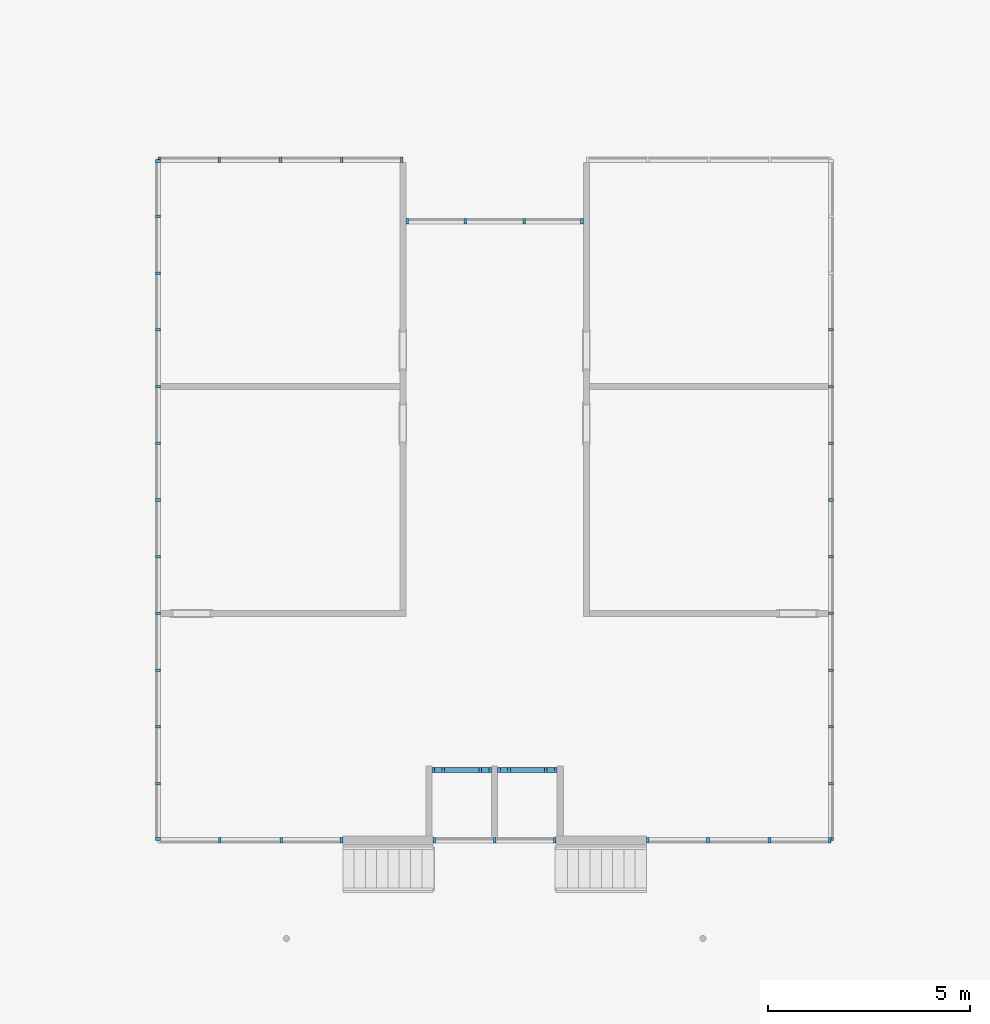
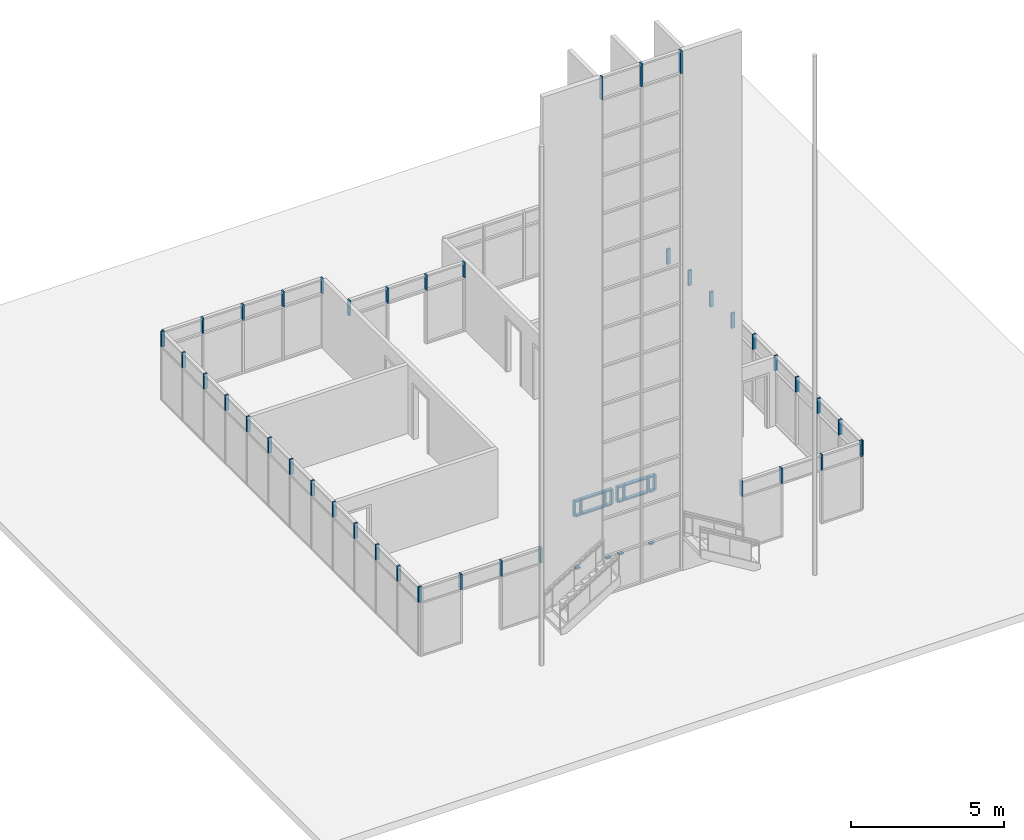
# One storey, part 5 of 12: 66 members, 9 elements without a shape of their own.
"""IFC2X3 building model written with IfcOpenShell, lengths in feet."""

from ifc_helpers import new_model, entity, si_unit, converted_unit, derived_unit, direction, frame, origin, origin_2d_with_axis, place, context, subcontext, project, spatial, rectangle, extrude, source, transform, mapped, material, type_object, type_shapes, element, aggregate, save


model = new_model("IFC2X3")

# Units and contexts
model_context = context("Model", 3, precision=0.0001, world=origin(), true_north=direction((6.12303176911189e-17, 1.0)))
body_context = subcontext(model_context, "Body", "Model", "MODEL_VIEW")
ifc_project = project(units=[converted_unit("LENGTHUNIT", "FOOT", entity("IfcRatioMeasure", 0.3048), si_unit("LENGTHUNIT", "METRE"), dimensions=[1, 0, 0, 0, 0, 0, 0]), converted_unit("AREAUNIT", "SQUARE FOOT", entity("IfcRatioMeasure", 0.09290304), si_unit("AREAUNIT", "SQUARE_METRE"), dimensions=[2, 0, 0, 0, 0, 0, 0]), converted_unit("VOLUMEUNIT", "CUBIC FOOT", entity("IfcRatioMeasure", 0.028316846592), si_unit("VOLUMEUNIT", "CUBIC_METRE"), dimensions=[3, 0, 0, 0, 0, 0, 0]), converted_unit("PLANEANGLEUNIT", "DEGREE", entity("IfcRatioMeasure", 0.0174532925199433), si_unit("PLANEANGLEUNIT", "RADIAN"), dimensions=[0, 0, 0, 0, 0, 0, 0]), si_unit("MASSUNIT", "GRAM", prefix="KILO"), derived_unit("MASSDENSITYUNIT", [(si_unit("MASSUNIT", "GRAM", prefix="KILO"), 1), (si_unit("LENGTHUNIT", "METRE"), -3)]), si_unit("TIMEUNIT", "SECOND"), si_unit("FREQUENCYUNIT", "HERTZ"), si_unit("THERMODYNAMICTEMPERATUREUNIT", "DEGREE_CELSIUS"), derived_unit("THERMALTRANSMITTANCEUNIT", [(si_unit("MASSUNIT", "GRAM", prefix="KILO"), 1), (si_unit("THERMODYNAMICTEMPERATUREUNIT", "KELVIN"), -1), (si_unit("TIMEUNIT", "SECOND"), -3)]), derived_unit("VOLUMETRICFLOWRATEUNIT", [(si_unit("LENGTHUNIT", "METRE"), 3), (si_unit("TIMEUNIT", "SECOND"), -1)]), si_unit("ELECTRICCURRENTUNIT", "AMPERE"), si_unit("ELECTRICVOLTAGEUNIT", "VOLT"), si_unit("POWERUNIT", "WATT"), si_unit("FORCEUNIT", "NEWTON"), si_unit("ILLUMINANCEUNIT", "LUX"), si_unit("LUMINOUSFLUXUNIT", "LUMEN"), si_unit("LUMINOUSINTENSITYUNIT", "CANDELA"), derived_unit("USERDEFINED", [(si_unit("MASSUNIT", "GRAM", prefix="KILO"), -1), (si_unit("LENGTHUNIT", "METRE"), -2), (si_unit("TIMEUNIT", "SECOND"), 3), (si_unit("LUMINOUSFLUXUNIT", "LUMEN"), 1)]), derived_unit("LINEARVELOCITYUNIT", [(si_unit("LENGTHUNIT", "METRE"), 1), (si_unit("TIMEUNIT", "SECOND"), -1)]), si_unit("PRESSUREUNIT", "PASCAL"), derived_unit("USERDEFINED", [(si_unit("LENGTHUNIT", "METRE"), -2), (si_unit("MASSUNIT", "GRAM", prefix="KILO"), 1), (si_unit("TIMEUNIT", "SECOND"), -2)])], contexts=[model_context])

# Site, building, storey
site_placement = place(None, origin())
site = spatial("IfcSite", under=ifc_project, at=site_placement, Name="Default", CompositionType="ELEMENT")
building_placement = place(site_placement, origin())
building = spatial("IfcBuilding", under=site, at=building_placement, CompositionType="ELEMENT")
storey_placement = place(building_placement, origin())
storey = spatial("IfcBuildingStorey", under=building, at=storey_placement, Name="Level 1", CompositionType="ELEMENT", Elevation=0.0)

# Curtain wall, members
curtain_wall_type_1 = type_object("IfcCurtainWallType", Name="Curtain Wall:Storefront", PredefinedType="NOTDEFINED")
curtain_wall_1_placement = place(storey_placement, origin())
curtain_wall_1 = element("IfcCurtainWall", 1, at=curtain_wall_1_placement, inside=storey, type_object=curtain_wall_type_1, Name="Curtain Wall:Storefront", ObjectType="Curtain Wall:Storefront")
ifc_material = material(Name="Aluminum")
member_type_1 = type_object("IfcMemberType", Name="2.5\" x 5\" rectangular", PredefinedType="MEMBER")
shared_shape_1 = source(origin(), body_context, "Body", "SweptSolid", [
    extrude(rectangle(XDim=0.416666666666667, YDim=0.208333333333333, at=origin_2d_with_axis()), frame((-0.104166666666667, 0.0, -3.0), z_axis=(0.0, 0.0, 1.0), x_axis=(0.0, -1.0, 0.0)), (0.0, 0.0, 1.0), 3.0),
])
type_shapes(member_type_1, [shared_shape_1])
member_1_placement = place(storey_placement, frame((-38.9918294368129, -6.94114126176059, 68.0), z_axis=(0.0, 0.0, 1.0), x_axis=(-1.0, 0.0, 0.0)))
member_1 = element("IfcMember", 2, at=member_1_placement, type_object=member_type_1, material=ifc_material, Name="Rectangular Mullion:2.5\" x 5\" rectangular", ObjectType="2.5\" x 5\" rectangular", context=body_context, shape_type="MappedRepresentation", body=[
    mapped(shared_shape_1, transform((0.0, 0.0, 0.0), scale=1.0)),
])
member_type_2 = type_object("IfcMemberType", Name="2.5\" x 5\" rectangular", PredefinedType="MEMBER")
shared_shape_2 = source(origin(), body_context, "Body", "SweptSolid", [
    extrude(rectangle(XDim=0.416666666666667, YDim=0.208333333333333, at=origin_2d_with_axis()), frame((-0.104166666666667, 0.0, -3.0), z_axis=(0.0, 0.0, 1.0), x_axis=(0.0, -1.0, 0.0)), (0.0, 0.0, 1.0), 3.0),
])
type_shapes(member_type_2, [shared_shape_2])
member_2_placement = place(storey_placement, frame((-28.9918294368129, -6.94114126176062, 65.0), z_axis=(0.0, 0.0, -1.0), x_axis=(1.0, 0.0, 0.0)))
member_2 = element("IfcMember", 3, at=member_2_placement, type_object=member_type_2, material=ifc_material, Name="Rectangular Mullion:2.5\" x 5\" rectangular", ObjectType="2.5\" x 5\" rectangular", context=body_context, shape_type="MappedRepresentation", body=[
    mapped(shared_shape_2, transform((0.0, 0.0, 0.0), scale=1.0)),
])
member_type_3 = type_object("IfcMemberType", Name="2.5\" x 5\" rectangular", PredefinedType="MEMBER")
shared_shape_3 = source(origin(), body_context, "Body", "SweptSolid", [
    extrude(rectangle(XDim=0.416666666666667, YDim=0.208333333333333, at=origin_2d_with_axis()), frame((0.0, 0.0, -3.0), z_axis=(0.0, 0.0, 1.0), x_axis=(0.0, -1.0, 0.0)), (0.0, 0.0, 1.0), 3.0),
])
type_shapes(member_type_3, [shared_shape_3])
member_3_placement = place(storey_placement, frame((-33.9918294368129, -6.94114126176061, 65.0), z_axis=(0.0, 0.0, -1.0), x_axis=(1.0, 0.0, 0.0)))
member_3 = element("IfcMember", 4, at=member_3_placement, type_object=member_type_3, material=ifc_material, Name="Rectangular Mullion:2.5\" x 5\" rectangular", ObjectType="2.5\" x 5\" rectangular", context=body_context, shape_type="MappedRepresentation", body=[
    mapped(shared_shape_3, transform((0.0, 0.0, 0.0), scale=1.0)),
])
aggregate(curtain_wall_1, [member_1, member_2, member_3])

# Curtain wall, member
curtain_wall_type_2 = type_object("IfcCurtainWallType", Name="Curtain Wall:Storefront 2", PredefinedType="NOTDEFINED")
curtain_wall_2_placement = place(storey_placement, origin())
curtain_wall_2 = element("IfcCurtainWall", 5, at=curtain_wall_2_placement, inside=storey, type_object=curtain_wall_type_2, Name="Curtain Wall:Storefront 2", ObjectType="Curtain Wall:Storefront 2")
member_type_4 = type_object("IfcMemberType", Name="2.5\" x 5\" rectangular", PredefinedType="MEMBER")
shared_shape_4 = source(origin(), body_context, "Body", "SweptSolid", [
    extrude(rectangle(XDim=0.416666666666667, YDim=0.208333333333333, at=origin_2d_with_axis()), frame((-0.104166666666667, 0.0, -2.0), z_axis=(0.0, 0.0, 1.0), x_axis=(0.0, -1.0, 0.0)), (0.0, 0.0, 1.0), 2.0),
])
type_shapes(member_type_4, [shared_shape_4])
member_4_placement = place(storey_placement, frame((-21.6584961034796, -6.94114126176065, 7.0), z_axis=(0.0, 0.0, -1.0), x_axis=(-1.0, 0.0, 0.0)))
member_4 = element("IfcMember", 6, at=member_4_placement, type_object=member_type_4, material=ifc_material, Name="Rectangular Mullion:2.5\" x 5\" rectangular", ObjectType="2.5\" x 5\" rectangular", context=body_context, shape_type="MappedRepresentation", body=[
    mapped(shared_shape_4, transform((0.0, 0.0, 0.0), scale=1.0)),
])

curtain_wall_3_placement = place(storey_placement, origin())
curtain_wall_3 = element("IfcCurtainWall", 7, at=curtain_wall_3_placement, inside=storey, type_object=curtain_wall_type_2, Name="Curtain Wall:Storefront 2", ObjectType="Curtain Wall:Storefront 2")
member_5_placement = place(storey_placement, frame((-39.0751627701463, -1.23280792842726, 7.0), z_axis=(0.0, 0.0, -1.0), x_axis=(-1.0, 0.0, 0.0)))
member_5 = element("IfcMember", 8, at=member_5_placement, type_object=member_type_4, material=ifc_material, Name="Rectangular Mullion:2.5\" x 5\" rectangular", ObjectType="2.5\" x 5\" rectangular", context=body_context, shape_type="MappedRepresentation", body=[
    mapped(shared_shape_4, transform((0.0, 0.0, 0.0), scale=1.0)),
])

curtain_wall_4_placement = place(storey_placement, origin())
curtain_wall_4 = element("IfcCurtainWall", 9, at=curtain_wall_4_placement, inside=storey, type_object=curtain_wall_type_2, Name="Curtain Wall:Storefront 2", ObjectType="Curtain Wall:Storefront 2")
member_6_placement = place(storey_placement, frame((-33.7418294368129, -1.23280792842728, 7.0), z_axis=(0.0, 0.0, -1.0), x_axis=(-1.0, 0.0, 0.0)))
member_6 = element("IfcMember", 10, at=member_6_placement, type_object=member_type_4, material=ifc_material, Name="Rectangular Mullion:2.5\" x 5\" rectangular", ObjectType="2.5\" x 5\" rectangular", context=body_context, shape_type="MappedRepresentation", body=[
    mapped(shared_shape_4, transform((0.0, 0.0, 0.0), scale=1.0)),
])

curtain_wall_5_placement = place(storey_placement, origin())
curtain_wall_5 = element("IfcCurtainWall", 11, at=curtain_wall_5_placement, inside=storey, type_object=curtain_wall_type_2, Name="Curtain Wall:Storefront 2", ObjectType="Curtain Wall:Storefront 2")
member_7_placement = place(storey_placement, frame((-61.3251627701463, 48.3505254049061, 7.0), z_axis=(0.0, 0.0, -1.0), x_axis=(0.0, 1.0, 0.0)))
member_7 = element("IfcMember", 12, at=member_7_placement, type_object=member_type_4, material=ifc_material, Name="Rectangular Mullion:2.5\" x 5\" rectangular", ObjectType="2.5\" x 5\" rectangular", context=body_context, shape_type="MappedRepresentation", body=[
    mapped(shared_shape_4, transform((0.0, 0.0, 0.0), scale=1.0)),
])

curtain_wall_6_placement = place(storey_placement, origin())
curtain_wall_6 = element("IfcCurtainWall", 13, at=curtain_wall_6_placement, inside=storey, type_object=curtain_wall_type_2, Name="Curtain Wall:Storefront 2", ObjectType="Curtain Wall:Storefront 2")
member_8_placement = place(storey_placement, frame((-41.4463748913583, 48.3505254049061, 7.0), z_axis=(0.0, 0.0, -1.0), x_axis=(1.0, 0.0, 0.0)))
member_8 = element("IfcMember", 14, at=member_8_placement, type_object=member_type_4, material=ifc_material, Name="Rectangular Mullion:2.5\" x 5\" rectangular", ObjectType="2.5\" x 5\" rectangular", context=body_context, shape_type="MappedRepresentation", body=[
    mapped(shared_shape_4, transform((0.0, 0.0, 0.0), scale=1.0)),
])

curtain_wall_7_placement = place(storey_placement, origin())
curtain_wall_7 = element("IfcCurtainWall", 15, at=curtain_wall_7_placement, inside=storey, type_object=curtain_wall_type_2, Name="Curtain Wall:Storefront 2", ObjectType="Curtain Wall:Storefront 2")
member_9_placement = place(storey_placement, frame((-6.65849610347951, -6.9411412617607, 7.0), z_axis=(0.0, 0.0, -1.0), x_axis=(0.0, -1.0, 0.0)))
member_9 = element("IfcMember", 16, at=member_9_placement, type_object=member_type_4, material=ifc_material, Name="Rectangular Mullion:2.5\" x 5\" rectangular", ObjectType="2.5\" x 5\" rectangular", context=body_context, shape_type="MappedRepresentation", body=[
    mapped(shared_shape_4, transform((0.0, 0.0, 0.0), scale=1.0)),
])

curtain_wall_8_placement = place(storey_placement, origin())
curtain_wall_8 = element("IfcCurtainWall", 17, at=curtain_wall_8_placement, inside=storey, type_object=curtain_wall_type_2, Name="Curtain Wall:Storefront 2", ObjectType="Curtain Wall:Storefront 2")
member_10_placement = place(storey_placement, frame((-26.7872839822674, 43.350525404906, 7.0), z_axis=(0.0, 0.0, -1.0), x_axis=(1.0, 0.0, 0.0)))
member_10 = element("IfcMember", 18, at=member_10_placement, type_object=member_type_4, material=ifc_material, Name="Rectangular Mullion:2.5\" x 5\" rectangular", ObjectType="2.5\" x 5\" rectangular", context=body_context, shape_type="MappedRepresentation", body=[
    mapped(shared_shape_4, transform((0.0, 0.0, 0.0), scale=1.0)),
])

curtain_wall_9_placement = place(storey_placement, origin())
curtain_wall_9 = element("IfcCurtainWall", 19, at=curtain_wall_9_placement, inside=storey, type_object=curtain_wall_type_2, Name="Curtain Wall:Storefront 2", ObjectType="Curtain Wall:Storefront 2")
member_type_5 = type_object("IfcMemberType", Name="2.5\" x 5\" rectangular", PredefinedType="MEMBER")
shared_shape_5 = source(origin(), body_context, "Body", "SweptSolid", [
    extrude(rectangle(XDim=0.416666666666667, YDim=0.208333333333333, at=origin_2d_with_axis()), frame((-0.104166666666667, 0.0, -2.0), z_axis=(0.0, 0.0, 1.0), x_axis=(0.0, -1.0, 0.0)), (0.0, 0.0, 1.0), 2.0),
])
type_shapes(member_type_5, [shared_shape_5])
member_11_placement = place(storey_placement, frame((-46.3251627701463, -6.94114126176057, 9.0)))
member_11 = element("IfcMember", 20, at=member_11_placement, type_object=member_type_5, material=ifc_material, Name="Rectangular Mullion:2.5\" x 5\" rectangular", ObjectType="2.5\" x 5\" rectangular", context=body_context, shape_type="MappedRepresentation", body=[
    mapped(shared_shape_5, transform((0.0, 0.0, 0.0), scale=1.0)),
])

# Member
member_12_placement = place(storey_placement, frame((-6.65849610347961, -6.94114126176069, 9.0)))
member_12 = element("IfcMember", 21, at=member_12_placement, type_object=member_type_5, material=ifc_material, Name="Rectangular Mullion:2.5\" x 5\" rectangular", ObjectType="2.5\" x 5\" rectangular", context=body_context, shape_type="MappedRepresentation", body=[
    mapped(shared_shape_5, transform((0.0, 0.0, 0.0), scale=1.0)),
])

member_13_placement = place(storey_placement, frame((-34.2418294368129, -1.23280792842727, 9.0)))
member_13 = element("IfcMember", 22, at=member_13_placement, type_object=member_type_5, material=ifc_material, Name="Rectangular Mullion:2.5\" x 5\" rectangular", ObjectType="2.5\" x 5\" rectangular", context=body_context, shape_type="MappedRepresentation", body=[
    mapped(shared_shape_5, transform((0.0, 0.0, 0.0), scale=1.0)),
])

member_14_placement = place(storey_placement, frame((-28.9084961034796, -1.23280792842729, 9.0)))
member_14 = element("IfcMember", 23, at=member_14_placement, type_object=member_type_5, material=ifc_material, Name="Rectangular Mullion:2.5\" x 5\" rectangular", ObjectType="2.5\" x 5\" rectangular", context=body_context, shape_type="MappedRepresentation", body=[
    mapped(shared_shape_5, transform((0.0, 0.0, 0.0), scale=1.0)),
])

member_15_placement = place(storey_placement, frame((-61.3251627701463, -6.94114126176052, 9.0), z_axis=(0.0, 0.0, 1.0), x_axis=(0.0, -1.0, 0.0)))
member_15 = element("IfcMember", 24, at=member_15_placement, type_object=member_type_5, material=ifc_material, Name="Rectangular Mullion:2.5\" x 5\" rectangular", ObjectType="2.5\" x 5\" rectangular", context=body_context, shape_type="MappedRepresentation", body=[
    mapped(shared_shape_5, transform((0.0, 0.0, 0.0), scale=1.0)),
])

member_16_placement = place(storey_placement, frame((-61.3251627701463, 48.3505254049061, 9.0), z_axis=(0.0, 0.0, 1.0), x_axis=(-1.0, 0.0, 0.0)))
member_16 = element("IfcMember", 25, at=member_16_placement, type_object=member_type_5, material=ifc_material, Name="Rectangular Mullion:2.5\" x 5\" rectangular", ObjectType="2.5\" x 5\" rectangular", context=body_context, shape_type="MappedRepresentation", body=[
    mapped(shared_shape_5, transform((0.0, 0.0, 0.0), scale=1.0)),
])

member_17_placement = place(storey_placement, frame((-41.1963748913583, 43.3505254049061, 9.0), z_axis=(0.0, 0.0, 1.0), x_axis=(-1.0, 0.0, 0.0)))
member_17 = element("IfcMember", 26, at=member_17_placement, type_object=member_type_5, material=ifc_material, Name="Rectangular Mullion:2.5\" x 5\" rectangular", ObjectType="2.5\" x 5\" rectangular", context=body_context, shape_type="MappedRepresentation", body=[
    mapped(shared_shape_5, transform((0.0, 0.0, 0.0), scale=1.0)),
])

member_type_6 = type_object("IfcMemberType", Name="2.5\" x 5\" rectangular", PredefinedType="MEMBER")
shared_shape_6 = source(origin(), body_context, "Body", "SweptSolid", [
    extrude(rectangle(XDim=0.416666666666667, YDim=0.208333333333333, at=origin_2d_with_axis()), frame((0.0, 0.0, -2.0), z_axis=(0.0, 0.0, 1.0), x_axis=(0.0, -1.0, 0.0)), (0.0, 0.0, 1.0), 2.0),
])
type_shapes(member_type_6, [shared_shape_6])
member_18_placement = place(storey_placement, frame((-51.3251627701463, -6.94114126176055, 7.0), z_axis=(0.0, 0.0, -1.0), x_axis=(-1.0, 0.0, 0.0)))
member_18 = element("IfcMember", 27, at=member_18_placement, type_object=member_type_6, material=ifc_material, Name="Rectangular Mullion:2.5\" x 5\" rectangular", ObjectType="2.5\" x 5\" rectangular", context=body_context, shape_type="MappedRepresentation", body=[
    mapped(shared_shape_6, transform((0.0, 0.0, 0.0), scale=1.0)),
])

member_19_placement = place(storey_placement, frame((-56.3251627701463, -6.94114126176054, 7.0), z_axis=(0.0, 0.0, -1.0), x_axis=(-1.0, 0.0, 0.0)))
member_19 = element("IfcMember", 28, at=member_19_placement, type_object=member_type_6, material=ifc_material, Name="Rectangular Mullion:2.5\" x 5\" rectangular", ObjectType="2.5\" x 5\" rectangular", context=body_context, shape_type="MappedRepresentation", body=[
    mapped(shared_shape_6, transform((0.0, 0.0, 0.0), scale=1.0)),
])

aggregate(curtain_wall_9, [member_11, member_18, member_19])

member_20_placement = place(storey_placement, frame((-11.6584961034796, -6.94114126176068, 7.0), z_axis=(0.0, 0.0, -1.0), x_axis=(-1.0, 0.0, 0.0)))
member_20 = element("IfcMember", 29, at=member_20_placement, type_object=member_type_6, material=ifc_material, Name="Rectangular Mullion:2.5\" x 5\" rectangular", ObjectType="2.5\" x 5\" rectangular", context=body_context, shape_type="MappedRepresentation", body=[
    mapped(shared_shape_6, transform((0.0, 0.0, 0.0), scale=1.0)),
])

member_21_placement = place(storey_placement, frame((-16.6584961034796, -6.94114126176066, 7.0), z_axis=(0.0, 0.0, -1.0), x_axis=(-1.0, 0.0, 0.0)))
member_21 = element("IfcMember", 30, at=member_21_placement, type_object=member_type_6, material=ifc_material, Name="Rectangular Mullion:2.5\" x 5\" rectangular", ObjectType="2.5\" x 5\" rectangular", context=body_context, shape_type="MappedRepresentation", body=[
    mapped(shared_shape_6, transform((0.0, 0.0, 0.0), scale=1.0)),
])

aggregate(curtain_wall_2, [member_4, member_12, member_20, member_21])

member_22_placement = place(storey_placement, frame((-35.1584961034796, -1.23280792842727, 7.0), z_axis=(0.0, 0.0, -1.0), x_axis=(-1.0, 0.0, 0.0)))
member_22 = element("IfcMember", 31, at=member_22_placement, type_object=member_type_6, material=ifc_material, Name="Rectangular Mullion:2.5\" x 5\" rectangular", ObjectType="2.5\" x 5\" rectangular", context=body_context, shape_type="MappedRepresentation", body=[
    mapped(shared_shape_6, transform((0.0, 0.0, 0.0), scale=1.0)),
])

member_23_placement = place(storey_placement, frame((-38.1584961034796, -1.23280792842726, 7.0), z_axis=(0.0, 0.0, -1.0), x_axis=(-1.0, 0.0, 0.0)))
member_23 = element("IfcMember", 32, at=member_23_placement, type_object=member_type_6, material=ifc_material, Name="Rectangular Mullion:2.5\" x 5\" rectangular", ObjectType="2.5\" x 5\" rectangular", context=body_context, shape_type="MappedRepresentation", body=[
    mapped(shared_shape_6, transform((0.0, 0.0, 0.0), scale=1.0)),
])

member_24_placement = place(storey_placement, frame((-29.8251627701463, -1.23280792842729, 7.0), z_axis=(0.0, 0.0, -1.0), x_axis=(-1.0, 0.0, 0.0)))
member_24 = element("IfcMember", 33, at=member_24_placement, type_object=member_type_6, material=ifc_material, Name="Rectangular Mullion:2.5\" x 5\" rectangular", ObjectType="2.5\" x 5\" rectangular", context=body_context, shape_type="MappedRepresentation", body=[
    mapped(shared_shape_6, transform((0.0, 0.0, 0.0), scale=1.0)),
])

member_25_placement = place(storey_placement, frame((-32.8251627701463, -1.23280792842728, 7.0), z_axis=(0.0, 0.0, -1.0), x_axis=(-1.0, 0.0, 0.0)))
member_25 = element("IfcMember", 34, at=member_25_placement, type_object=member_type_6, material=ifc_material, Name="Rectangular Mullion:2.5\" x 5\" rectangular", ObjectType="2.5\" x 5\" rectangular", context=body_context, shape_type="MappedRepresentation", body=[
    mapped(shared_shape_6, transform((0.0, 0.0, 0.0), scale=1.0)),
])

member_26_placement = place(storey_placement, frame((-61.3251627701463, -2.33350237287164, 7.0), z_axis=(0.0, 0.0, -1.0), x_axis=(0.0, 1.0, 0.0)))
member_26 = element("IfcMember", 35, at=member_26_placement, type_object=member_type_6, material=ifc_material, Name="Rectangular Mullion:2.5\" x 5\" rectangular", ObjectType="2.5\" x 5\" rectangular", context=body_context, shape_type="MappedRepresentation", body=[
    mapped(shared_shape_6, transform((0.0, 0.0, 0.0), scale=1.0)),
])

member_27_placement = place(storey_placement, frame((-61.3251627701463, 2.27413651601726, 7.0), z_axis=(0.0, 0.0, -1.0), x_axis=(0.0, 1.0, 0.0)))
member_27 = element("IfcMember", 36, at=member_27_placement, type_object=member_type_6, material=ifc_material, Name="Rectangular Mullion:2.5\" x 5\" rectangular", ObjectType="2.5\" x 5\" rectangular", context=body_context, shape_type="MappedRepresentation", body=[
    mapped(shared_shape_6, transform((0.0, 0.0, 0.0), scale=1.0)),
])

member_28_placement = place(storey_placement, frame((-61.3251627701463, 6.88177540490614, 7.0), z_axis=(0.0, 0.0, -1.0), x_axis=(0.0, 1.0, 0.0)))
member_28 = element("IfcMember", 37, at=member_28_placement, type_object=member_type_6, material=ifc_material, Name="Rectangular Mullion:2.5\" x 5\" rectangular", ObjectType="2.5\" x 5\" rectangular", context=body_context, shape_type="MappedRepresentation", body=[
    mapped(shared_shape_6, transform((0.0, 0.0, 0.0), scale=1.0)),
])

member_29_placement = place(storey_placement, frame((-61.3251627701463, 11.489414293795, 7.0), z_axis=(0.0, 0.0, -1.0), x_axis=(0.0, 1.0, 0.0)))
member_29 = element("IfcMember", 38, at=member_29_placement, type_object=member_type_6, material=ifc_material, Name="Rectangular Mullion:2.5\" x 5\" rectangular", ObjectType="2.5\" x 5\" rectangular", context=body_context, shape_type="MappedRepresentation", body=[
    mapped(shared_shape_6, transform((0.0, 0.0, 0.0), scale=1.0)),
])

member_30_placement = place(storey_placement, frame((-61.3251627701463, 16.0970531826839, 7.0), z_axis=(0.0, 0.0, -1.0), x_axis=(0.0, 1.0, 0.0)))
member_30 = element("IfcMember", 39, at=member_30_placement, type_object=member_type_6, material=ifc_material, Name="Rectangular Mullion:2.5\" x 5\" rectangular", ObjectType="2.5\" x 5\" rectangular", context=body_context, shape_type="MappedRepresentation", body=[
    mapped(shared_shape_6, transform((0.0, 0.0, 0.0), scale=1.0)),
])

member_31_placement = place(storey_placement, frame((-61.3251627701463, 20.7046920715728, 7.0), z_axis=(0.0, 0.0, -1.0), x_axis=(0.0, 1.0, 0.0)))
member_31 = element("IfcMember", 40, at=member_31_placement, type_object=member_type_6, material=ifc_material, Name="Rectangular Mullion:2.5\" x 5\" rectangular", ObjectType="2.5\" x 5\" rectangular", context=body_context, shape_type="MappedRepresentation", body=[
    mapped(shared_shape_6, transform((0.0, 0.0, 0.0), scale=1.0)),
])

member_32_placement = place(storey_placement, frame((-61.3251627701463, 25.3123309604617, 7.0), z_axis=(0.0, 0.0, -1.0), x_axis=(0.0, 1.0, 0.0)))
member_32 = element("IfcMember", 41, at=member_32_placement, type_object=member_type_6, material=ifc_material, Name="Rectangular Mullion:2.5\" x 5\" rectangular", ObjectType="2.5\" x 5\" rectangular", context=body_context, shape_type="MappedRepresentation", body=[
    mapped(shared_shape_6, transform((0.0, 0.0, 0.0), scale=1.0)),
])

member_33_placement = place(storey_placement, frame((-61.3251627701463, 29.9199698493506, 7.0), z_axis=(0.0, 0.0, -1.0), x_axis=(0.0, 1.0, 0.0)))
member_33 = element("IfcMember", 42, at=member_33_placement, type_object=member_type_6, material=ifc_material, Name="Rectangular Mullion:2.5\" x 5\" rectangular", ObjectType="2.5\" x 5\" rectangular", context=body_context, shape_type="MappedRepresentation", body=[
    mapped(shared_shape_6, transform((0.0, 0.0, 0.0), scale=1.0)),
])

member_34_placement = place(storey_placement, frame((-61.3251627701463, 34.5276087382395, 7.0), z_axis=(0.0, 0.0, -1.0), x_axis=(0.0, 1.0, 0.0)))
member_34 = element("IfcMember", 43, at=member_34_placement, type_object=member_type_6, material=ifc_material, Name="Rectangular Mullion:2.5\" x 5\" rectangular", ObjectType="2.5\" x 5\" rectangular", context=body_context, shape_type="MappedRepresentation", body=[
    mapped(shared_shape_6, transform((0.0, 0.0, 0.0), scale=1.0)),
])

member_35_placement = place(storey_placement, frame((-61.3251627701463, 39.1352476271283, 7.0), z_axis=(0.0, 0.0, -1.0), x_axis=(0.0, 1.0, 0.0)))
member_35 = element("IfcMember", 44, at=member_35_placement, type_object=member_type_6, material=ifc_material, Name="Rectangular Mullion:2.5\" x 5\" rectangular", ObjectType="2.5\" x 5\" rectangular", context=body_context, shape_type="MappedRepresentation", body=[
    mapped(shared_shape_6, transform((0.0, 0.0, 0.0), scale=1.0)),
])

member_36_placement = place(storey_placement, frame((-61.3251627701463, 43.7428865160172, 7.0), z_axis=(0.0, 0.0, -1.0), x_axis=(0.0, 1.0, 0.0)))
member_36 = element("IfcMember", 45, at=member_36_placement, type_object=member_type_6, material=ifc_material, Name="Rectangular Mullion:2.5\" x 5\" rectangular", ObjectType="2.5\" x 5\" rectangular", context=body_context, shape_type="MappedRepresentation", body=[
    mapped(shared_shape_6, transform((0.0, 0.0, 0.0), scale=1.0)),
])

aggregate(curtain_wall_5, [member_7, member_15, member_26, member_27, member_28, member_29, member_30, member_31, member_32, member_33, member_34, member_35, member_36])

member_37_placement = place(storey_placement, frame((-56.3554658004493, 48.3505254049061, 7.0), z_axis=(0.0, 0.0, -1.0), x_axis=(1.0, 0.0, 0.0)))
member_37 = element("IfcMember", 46, at=member_37_placement, type_object=member_type_6, material=ifc_material, Name="Rectangular Mullion:2.5\" x 5\" rectangular", ObjectType="2.5\" x 5\" rectangular", context=body_context, shape_type="MappedRepresentation", body=[
    mapped(shared_shape_6, transform((0.0, 0.0, 0.0), scale=1.0)),
])

member_38_placement = place(storey_placement, frame((-51.3857688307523, 48.3505254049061, 7.0), z_axis=(0.0, 0.0, -1.0), x_axis=(1.0, 0.0, 0.0)))
member_38 = element("IfcMember", 47, at=member_38_placement, type_object=member_type_6, material=ifc_material, Name="Rectangular Mullion:2.5\" x 5\" rectangular", ObjectType="2.5\" x 5\" rectangular", context=body_context, shape_type="MappedRepresentation", body=[
    mapped(shared_shape_6, transform((0.0, 0.0, 0.0), scale=1.0)),
])

member_39_placement = place(storey_placement, frame((-46.4160718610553, 48.3505254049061, 7.0), z_axis=(0.0, 0.0, -1.0), x_axis=(1.0, 0.0, 0.0)))
member_39 = element("IfcMember", 48, at=member_39_placement, type_object=member_type_6, material=ifc_material, Name="Rectangular Mullion:2.5\" x 5\" rectangular", ObjectType="2.5\" x 5\" rectangular", context=body_context, shape_type="MappedRepresentation", body=[
    mapped(shared_shape_6, transform((0.0, 0.0, 0.0), scale=1.0)),
])

aggregate(curtain_wall_6, [member_8, member_16, member_37, member_38, member_39])

member_40_placement = place(storey_placement, frame((-6.65849610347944, 34.5276087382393, 7.0), z_axis=(0.0, 0.0, -1.0), x_axis=(0.0, -1.0, 0.0)))
member_40 = element("IfcMember", 49, at=member_40_placement, type_object=member_type_6, material=ifc_material, Name="Rectangular Mullion:2.5\" x 5\" rectangular", ObjectType="2.5\" x 5\" rectangular", context=body_context, shape_type="MappedRepresentation", body=[
    mapped(shared_shape_6, transform((0.0, 0.0, 0.0), scale=1.0)),
])

member_41_placement = place(storey_placement, frame((-6.65849610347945, 29.9199698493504, 7.0), z_axis=(0.0, 0.0, -1.0), x_axis=(0.0, -1.0, 0.0)))
member_41 = element("IfcMember", 50, at=member_41_placement, type_object=member_type_6, material=ifc_material, Name="Rectangular Mullion:2.5\" x 5\" rectangular", ObjectType="2.5\" x 5\" rectangular", context=body_context, shape_type="MappedRepresentation", body=[
    mapped(shared_shape_6, transform((0.0, 0.0, 0.0), scale=1.0)),
])

member_42_placement = place(storey_placement, frame((-6.65849610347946, 25.3123309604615, 7.0), z_axis=(0.0, 0.0, -1.0), x_axis=(0.0, -1.0, 0.0)))
member_42 = element("IfcMember", 51, at=member_42_placement, type_object=member_type_6, material=ifc_material, Name="Rectangular Mullion:2.5\" x 5\" rectangular", ObjectType="2.5\" x 5\" rectangular", context=body_context, shape_type="MappedRepresentation", body=[
    mapped(shared_shape_6, transform((0.0, 0.0, 0.0), scale=1.0)),
])

member_43_placement = place(storey_placement, frame((-6.65849610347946, 20.7046920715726, 7.0), z_axis=(0.0, 0.0, -1.0), x_axis=(0.0, -1.0, 0.0)))
member_43 = element("IfcMember", 52, at=member_43_placement, type_object=member_type_6, material=ifc_material, Name="Rectangular Mullion:2.5\" x 5\" rectangular", ObjectType="2.5\" x 5\" rectangular", context=body_context, shape_type="MappedRepresentation", body=[
    mapped(shared_shape_6, transform((0.0, 0.0, 0.0), scale=1.0)),
])

member_44_placement = place(storey_placement, frame((-6.65849610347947, 16.0970531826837, 7.0), z_axis=(0.0, 0.0, -1.0), x_axis=(0.0, -1.0, 0.0)))
member_44 = element("IfcMember", 53, at=member_44_placement, type_object=member_type_6, material=ifc_material, Name="Rectangular Mullion:2.5\" x 5\" rectangular", ObjectType="2.5\" x 5\" rectangular", context=body_context, shape_type="MappedRepresentation", body=[
    mapped(shared_shape_6, transform((0.0, 0.0, 0.0), scale=1.0)),
])

member_45_placement = place(storey_placement, frame((-6.65849610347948, 11.4894142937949, 7.0), z_axis=(0.0, 0.0, -1.0), x_axis=(0.0, -1.0, 0.0)))
member_45 = element("IfcMember", 54, at=member_45_placement, type_object=member_type_6, material=ifc_material, Name="Rectangular Mullion:2.5\" x 5\" rectangular", ObjectType="2.5\" x 5\" rectangular", context=body_context, shape_type="MappedRepresentation", body=[
    mapped(shared_shape_6, transform((0.0, 0.0, 0.0), scale=1.0)),
])

member_46_placement = place(storey_placement, frame((-6.65849610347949, 6.88177540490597, 7.0), z_axis=(0.0, 0.0, -1.0), x_axis=(0.0, -1.0, 0.0)))
member_46 = element("IfcMember", 55, at=member_46_placement, type_object=member_type_6, material=ifc_material, Name="Rectangular Mullion:2.5\" x 5\" rectangular", ObjectType="2.5\" x 5\" rectangular", context=body_context, shape_type="MappedRepresentation", body=[
    mapped(shared_shape_6, transform((0.0, 0.0, 0.0), scale=1.0)),
])

member_47_placement = place(storey_placement, frame((-6.65849610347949, 2.27413651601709, 7.0), z_axis=(0.0, 0.0, -1.0), x_axis=(0.0, -1.0, 0.0)))
member_47 = element("IfcMember", 56, at=member_47_placement, type_object=member_type_6, material=ifc_material, Name="Rectangular Mullion:2.5\" x 5\" rectangular", ObjectType="2.5\" x 5\" rectangular", context=body_context, shape_type="MappedRepresentation", body=[
    mapped(shared_shape_6, transform((0.0, 0.0, 0.0), scale=1.0)),
])

member_48_placement = place(storey_placement, frame((-6.6584961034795, -2.3335023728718, 7.0), z_axis=(0.0, 0.0, -1.0), x_axis=(0.0, -1.0, 0.0)))
member_48 = element("IfcMember", 57, at=member_48_placement, type_object=member_type_6, material=ifc_material, Name="Rectangular Mullion:2.5\" x 5\" rectangular", ObjectType="2.5\" x 5\" rectangular", context=body_context, shape_type="MappedRepresentation", body=[
    mapped(shared_shape_6, transform((0.0, 0.0, 0.0), scale=1.0)),
])

aggregate(curtain_wall_7, [member_9, member_40, member_41, member_42, member_43, member_44, member_45, member_46, member_47, member_48])

member_49_placement = place(storey_placement, frame((-36.393344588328, 43.3505254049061, 7.0), z_axis=(0.0, 0.0, -1.0), x_axis=(1.0, 0.0, 0.0)))
member_49 = element("IfcMember", 58, at=member_49_placement, type_object=member_type_6, material=ifc_material, Name="Rectangular Mullion:2.5\" x 5\" rectangular", ObjectType="2.5\" x 5\" rectangular", context=body_context, shape_type="MappedRepresentation", body=[
    mapped(shared_shape_6, transform((0.0, 0.0, 0.0), scale=1.0)),
])

member_50_placement = place(storey_placement, frame((-31.5903142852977, 43.350525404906, 7.0), z_axis=(0.0, 0.0, -1.0), x_axis=(1.0, 0.0, 0.0)))
member_50 = element("IfcMember", 59, at=member_50_placement, type_object=member_type_6, material=ifc_material, Name="Rectangular Mullion:2.5\" x 5\" rectangular", ObjectType="2.5\" x 5\" rectangular", context=body_context, shape_type="MappedRepresentation", body=[
    mapped(shared_shape_6, transform((0.0, 0.0, 0.0), scale=1.0)),
])

aggregate(curtain_wall_8, [member_10, member_17, member_49, member_50])

member_type_7 = type_object("IfcMemberType", Name="2.5\" x 5\" rectangular", PredefinedType="MEMBER")
shared_shape_7 = source(origin(), body_context, "Body", "SweptSolid", [
    extrude(rectangle(XDim=0.416666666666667, YDim=0.208333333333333, at=origin_2d_with_axis()), frame((-0.104166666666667, 0.0, -0.604166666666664), z_axis=(0.0, 0.0, 1.0), x_axis=(0.0, -1.0, 0.0)), (0.0, 0.0, 1.0), 0.604166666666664),
])
type_shapes(member_type_7, [shared_shape_7])
member_51_placement = place(storey_placement, frame((-38.8668294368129, -1.23280792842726, 9.0), z_axis=(-1.0, 0.0, 0.0), x_axis=(0.0, 0.0, 1.0)))
member_51 = element("IfcMember", 60, at=member_51_placement, type_object=member_type_7, material=ifc_material, Name="Rectangular Mullion:2.5\" x 5\" rectangular", ObjectType="2.5\" x 5\" rectangular", context=body_context, shape_type="MappedRepresentation", body=[
    mapped(shared_shape_7, transform((0.0, 0.0, 0.0), scale=1.0)),
])

member_52_placement = place(storey_placement, frame((-35.0543294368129, -1.23280792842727, 9.0), z_axis=(-1.0, 0.0, 0.0), x_axis=(0.0, 0.0, 1.0)))
member_52 = element("IfcMember", 61, at=member_52_placement, type_object=member_type_7, material=ifc_material, Name="Rectangular Mullion:2.5\" x 5\" rectangular", ObjectType="2.5\" x 5\" rectangular", context=body_context, shape_type="MappedRepresentation", body=[
    mapped(shared_shape_7, transform((0.0, 0.0, 0.0), scale=1.0)),
])

member_53_placement = place(storey_placement, frame((-33.5334961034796, -1.23280792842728, 9.0), z_axis=(-1.0, 0.0, 0.0), x_axis=(0.0, 0.0, 1.0)))
member_53 = element("IfcMember", 62, at=member_53_placement, type_object=member_type_7, material=ifc_material, Name="Rectangular Mullion:2.5\" x 5\" rectangular", ObjectType="2.5\" x 5\" rectangular", context=body_context, shape_type="MappedRepresentation", body=[
    mapped(shared_shape_7, transform((0.0, 0.0, 0.0), scale=1.0)),
])

member_54_placement = place(storey_placement, frame((-29.7209961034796, -1.23280792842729, 9.0), z_axis=(-1.0, 0.0, 0.0), x_axis=(0.0, 0.0, 1.0)))
member_54 = element("IfcMember", 63, at=member_54_placement, type_object=member_type_7, material=ifc_material, Name="Rectangular Mullion:2.5\" x 5\" rectangular", ObjectType="2.5\" x 5\" rectangular", context=body_context, shape_type="MappedRepresentation", body=[
    mapped(shared_shape_7, transform((0.0, 0.0, 0.0), scale=1.0)),
])

member_type_8 = type_object("IfcMemberType", Name="2.5\" x 5\" rectangular", PredefinedType="MEMBER")
shared_shape_8 = source(origin(), body_context, "Body", "SweptSolid", [
    extrude(rectangle(XDim=0.416666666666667, YDim=0.208333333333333, at=origin_2d_with_axis()), frame((-0.104166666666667, 0.0, -0.604166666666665), z_axis=(0.0, 0.0, 1.0), x_axis=(0.0, -1.0, 0.0)), (0.0, 0.0, 1.0), 0.604166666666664),
])
type_shapes(member_type_8, [shared_shape_8])
member_55_placement = place(storey_placement, frame((-34.4501627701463, -1.23280792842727, 0.0), z_axis=(1.0, 0.0, 0.0), x_axis=(0.0, 0.0, -1.0)))
member_55 = element("IfcMember", 64, at=member_55_placement, type_object=member_type_8, material=ifc_material, Name="Rectangular Mullion:2.5\" x 5\" rectangular", ObjectType="2.5\" x 5\" rectangular", context=body_context, shape_type="MappedRepresentation", body=[
    mapped(shared_shape_8, transform((0.0, 0.0, 0.0), scale=1.0)),
])

member_56_placement = place(storey_placement, frame((-38.2626627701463, -1.23280792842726, 0.0), z_axis=(1.0, 0.0, 0.0), x_axis=(0.0, 0.0, -1.0)))
member_56 = element("IfcMember", 65, at=member_56_placement, type_object=member_type_8, material=ifc_material, Name="Rectangular Mullion:2.5\" x 5\" rectangular", ObjectType="2.5\" x 5\" rectangular", context=body_context, shape_type="MappedRepresentation", body=[
    mapped(shared_shape_8, transform((0.0, 0.0, 0.0), scale=1.0)),
])

member_57_placement = place(storey_placement, frame((-29.1168294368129, -1.23280792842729, 0.0), z_axis=(1.0, 0.0, 0.0), x_axis=(0.0, 0.0, -1.0)))
member_57 = element("IfcMember", 66, at=member_57_placement, type_object=member_type_8, material=ifc_material, Name="Rectangular Mullion:2.5\" x 5\" rectangular", ObjectType="2.5\" x 5\" rectangular", context=body_context, shape_type="MappedRepresentation", body=[
    mapped(shared_shape_8, transform((0.0, 0.0, 0.0), scale=1.0)),
])

member_58_placement = place(storey_placement, frame((-32.9293294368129, -1.23280792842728, 0.0), z_axis=(1.0, 0.0, 0.0), x_axis=(0.0, 0.0, -1.0)))
member_58 = element("IfcMember", 67, at=member_58_placement, type_object=member_type_8, material=ifc_material, Name="Rectangular Mullion:2.5\" x 5\" rectangular", ObjectType="2.5\" x 5\" rectangular", context=body_context, shape_type="MappedRepresentation", body=[
    mapped(shared_shape_8, transform((0.0, 0.0, 0.0), scale=1.0)),
])

member_type_9 = type_object("IfcMemberType", Name="2.5\" x 5\" rectangular", PredefinedType="MEMBER")
shared_shape_9 = source(origin(), body_context, "Body", "SweptSolid", [
    extrude(rectangle(XDim=0.416666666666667, YDim=0.208333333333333, at=origin_2d_with_axis()), frame((0.0, 0.0, -0.604166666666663), z_axis=(0.0, 0.0, 1.0), x_axis=(0.0, -1.0, 0.0)), (0.0, 0.0, 1.0), 0.604166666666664),
])
type_shapes(member_type_9, [shared_shape_9])
member_59_placement = place(storey_placement, frame((-35.0543294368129, -1.23280792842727, 7.0), z_axis=(-1.0, 0.0, 0.0), x_axis=(0.0, 0.0, 1.0)))
member_59 = element("IfcMember", 68, at=member_59_placement, type_object=member_type_9, material=ifc_material, Name="Rectangular Mullion:2.5\" x 5\" rectangular", ObjectType="2.5\" x 5\" rectangular", context=body_context, shape_type="MappedRepresentation", body=[
    mapped(shared_shape_9, transform((0.0, 0.0, 0.0), scale=1.0)),
])

member_60_placement = place(storey_placement, frame((-38.8668294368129, -1.23280792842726, 7.0), z_axis=(-1.0, 0.0, 0.0), x_axis=(0.0, 0.0, 1.0)))
member_60 = element("IfcMember", 69, at=member_60_placement, type_object=member_type_9, material=ifc_material, Name="Rectangular Mullion:2.5\" x 5\" rectangular", ObjectType="2.5\" x 5\" rectangular", context=body_context, shape_type="MappedRepresentation", body=[
    mapped(shared_shape_9, transform((0.0, 0.0, 0.0), scale=1.0)),
])

member_61_placement = place(storey_placement, frame((-29.7209961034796, -1.23280792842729, 7.0), z_axis=(-1.0, 0.0, 0.0), x_axis=(0.0, 0.0, 1.0)))
member_61 = element("IfcMember", 70, at=member_61_placement, type_object=member_type_9, material=ifc_material, Name="Rectangular Mullion:2.5\" x 5\" rectangular", ObjectType="2.5\" x 5\" rectangular", context=body_context, shape_type="MappedRepresentation", body=[
    mapped(shared_shape_9, transform((0.0, 0.0, 0.0), scale=1.0)),
])

member_62_placement = place(storey_placement, frame((-33.5334961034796, -1.23280792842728, 7.0), z_axis=(-1.0, 0.0, 0.0), x_axis=(0.0, 0.0, 1.0)))
member_62 = element("IfcMember", 71, at=member_62_placement, type_object=member_type_9, material=ifc_material, Name="Rectangular Mullion:2.5\" x 5\" rectangular", ObjectType="2.5\" x 5\" rectangular", context=body_context, shape_type="MappedRepresentation", body=[
    mapped(shared_shape_9, transform((0.0, 0.0, 0.0), scale=1.0)),
])

member_type_10 = type_object("IfcMemberType", Name="2.5\" x 5\" rectangular", PredefinedType="MEMBER")
shared_shape_10 = source(origin(), body_context, "Body", "SweptSolid", [
    extrude(rectangle(XDim=0.416666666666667, YDim=0.208333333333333, at=origin_2d_with_axis()), frame((0.0, 0.0, -2.79166666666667), z_axis=(0.0, 0.0, 1.0), x_axis=(0.0, -1.0, 0.0)), (0.0, 0.0, 1.0), 2.79166666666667),
])
type_shapes(member_type_10, [shared_shape_10])
member_63_placement = place(storey_placement, frame((-38.0543294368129, -1.23280792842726, 7.0), z_axis=(-1.0, 0.0, 0.0), x_axis=(0.0, 0.0, 1.0)))
member_63 = element("IfcMember", 72, at=member_63_placement, type_object=member_type_10, material=ifc_material, Name="Rectangular Mullion:2.5\" x 5\" rectangular", ObjectType="2.5\" x 5\" rectangular", context=body_context, shape_type="MappedRepresentation", body=[
    mapped(shared_shape_10, transform((0.0, 0.0, 0.0), scale=1.0)),
])

member_64_placement = place(storey_placement, frame((-32.7209961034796, -1.23280792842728, 7.0), z_axis=(-1.0, 0.0, 0.0), x_axis=(0.0, 0.0, 1.0)))
member_64 = element("IfcMember", 73, at=member_64_placement, type_object=member_type_10, material=ifc_material, Name="Rectangular Mullion:2.5\" x 5\" rectangular", ObjectType="2.5\" x 5\" rectangular", context=body_context, shape_type="MappedRepresentation", body=[
    mapped(shared_shape_10, transform((0.0, 0.0, 0.0), scale=1.0)),
])

member_type_11 = type_object("IfcMemberType", Name="2.5\" x 5\" rectangular", PredefinedType="MEMBER")
shared_shape_11 = source(origin(), body_context, "Body", "SweptSolid", [
    extrude(rectangle(XDim=0.416666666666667, YDim=0.208333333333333, at=origin_2d_with_axis()), frame((-0.104166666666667, 0.0, -2.79166666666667), z_axis=(0.0, 0.0, 1.0), x_axis=(0.0, -1.0, 0.0)), (0.0, 0.0, 1.0), 2.79166666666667),
])
type_shapes(member_type_11, [shared_shape_11])
member_65_placement = place(storey_placement, frame((-38.0543294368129, -1.23280792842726, 9.0), z_axis=(-1.0, 0.0, 0.0), x_axis=(0.0, 0.0, 1.0)))
member_65 = element("IfcMember", 74, at=member_65_placement, type_object=member_type_11, material=ifc_material, Name="Rectangular Mullion:2.5\" x 5\" rectangular", ObjectType="2.5\" x 5\" rectangular", context=body_context, shape_type="MappedRepresentation", body=[
    mapped(shared_shape_11, transform((0.0, 0.0, 0.0), scale=1.0)),
])

aggregate(curtain_wall_3, [member_51, member_55, member_5, member_13, member_59, member_52, member_63, member_22, member_65, member_56, member_60, member_23])

member_66_placement = place(storey_placement, frame((-32.7209961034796, -1.23280792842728, 9.0), z_axis=(-1.0, 0.0, 0.0), x_axis=(0.0, 0.0, 1.0)))
member_66 = element("IfcMember", 75, at=member_66_placement, type_object=member_type_11, material=ifc_material, Name="Rectangular Mullion:2.5\" x 5\" rectangular", ObjectType="2.5\" x 5\" rectangular", context=body_context, shape_type="MappedRepresentation", body=[
    mapped(shared_shape_11, transform((0.0, 0.0, 0.0), scale=1.0)),
])

aggregate(curtain_wall_4, [member_53, member_57, member_6, member_14, member_61, member_54, member_64, member_24, member_66, member_58, member_62, member_25])

save(model, "model.ifc")
